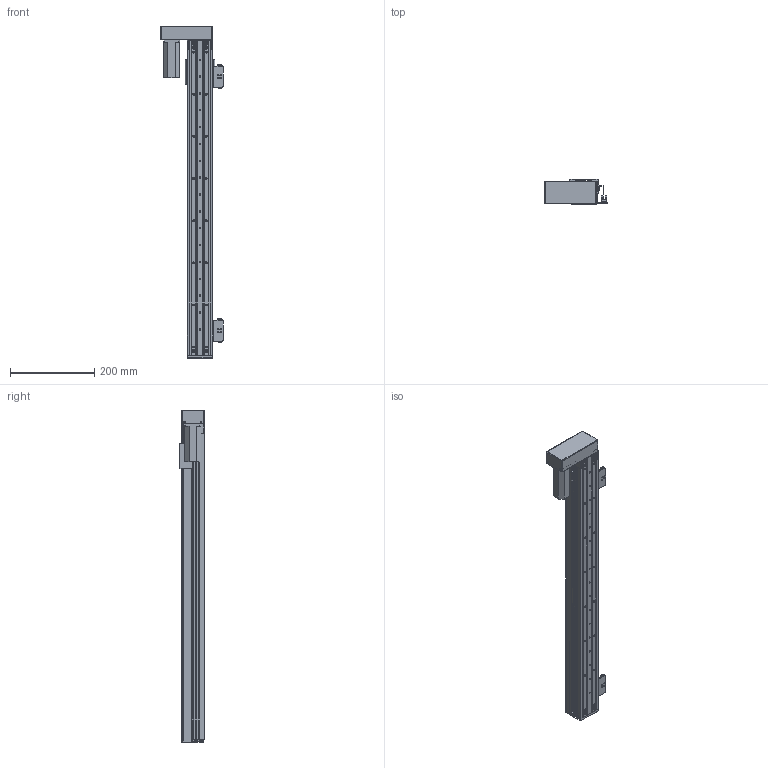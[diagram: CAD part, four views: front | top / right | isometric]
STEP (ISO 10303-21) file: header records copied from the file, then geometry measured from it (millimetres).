
FILE_DESCRIPTION (( 'STEP AP203' ), '1' );
FILE_NAME ('RY60FB-L1210-300-LK.SLDASM_600.step', '2021-02-23T01:00:59', ( '盈信电脑' ), ( '东莞市道滘镇水果街19号' ), 'SwSTEP 2.0', 'SolidWorks 2012', '' );
FILE_SCHEMA (( 'CONFIG_CONTROL_DESIGN' ));
Length unit declared in the file: millimetre
Products named in the file (14): RY60FB綴裔啣; RY60FB转折电机端支撑座; 侂狟100W; RY60FB-蛌殏奻裔-300-LK_600; RY60FB-臏賑輸; RY60FB-蛌殏菁釱-300-LK_600; 滅袉蝶18-10; RY60FB-L1210-300-LK.SLDASM_600; RY60FB-674嫖萇耀輸; 覜茼ん674; RY60FB-感应器674光电安装座; RY80俋离覜茼え; RY60FB-左右折电机安装板; RY60FB-蛌殏萇儂欶
Assembly tree (18 placements, depth 3):
  RY60FB-L1210-300-LK.SLDASM_600
    RY60FB-蛌殏菁釱-300-LK_600
    RY60FB-臏賑輸
    滅袉蝶18-10  x4
    RY60FB-蛌殏奻裔-300-LK_600
    侂狟100W
    RY60FB綴裔啣
    RY60FB转折电机端支撑座
    RY60FB-左右折电机安装板
    RY60FB-蛌殏萇儂欶
    RY60FB-674嫖萇耀輸  x2
      RY60FB-感应器674光电安装座
      覜茼ん674
    RY80俋离覜茼え
Bounding box: 147.75 x 58.5 x 788 mm (x, y, z)
Volume: 1006116.5 mm3; surface area: 562539.3 mm2
Topology: 19 solids, 19 shells, 1175 faces, 3200 edges, 2042 vertices
Faces by surface type: plane 591, cylinder 479, cone 97, bspline 8
Entity records: 31864 total; most frequent: CARTESIAN_POINT 6210, DIRECTION 5074, ORIENTED_EDGE 4952, EDGE_CURVE 2476, AXIS2_PLACEMENT_3D 1780, VERTEX_POINT 1604, LINE 1514, VECTOR 1514
